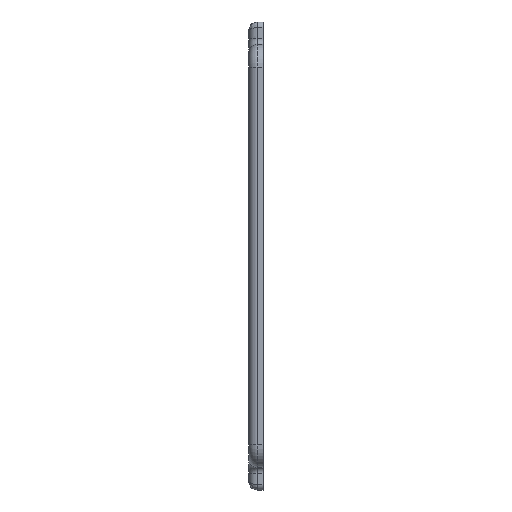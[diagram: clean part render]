
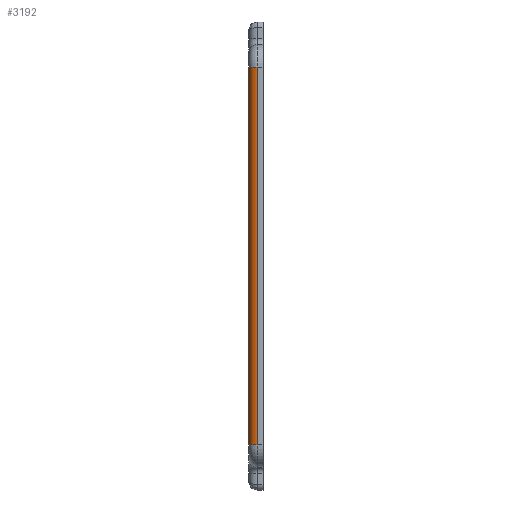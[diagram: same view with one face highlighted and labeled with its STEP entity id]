
A CAD part, left-side view. The second image highlights one B-rep face of the part: STEP entity #3192.
In plain terms, the highlighted cylindrical face has radius 3 mm (diameter 6 mm), a partial arc.
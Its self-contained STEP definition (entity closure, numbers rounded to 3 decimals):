
#429=DIRECTION('',(0.,0.,1.));
#430=VECTOR('',#429,134.);
#431=CARTESIAN_POINT('',(-57.5,5.,-67.));
#432=LINE('',#431,#430);
#1151=CARTESIAN_POINT('',(-57.5,2.,67.));
#1152=DIRECTION('',(0.,0.,1.));
#1153=DIRECTION('',(0.,1.,0.));
#1154=AXIS2_PLACEMENT_3D('',#1151,#1152,#1153);
#1156=CARTESIAN_POINT('',(-57.5,2.,-67.));
#1157=DIRECTION('',(0.,0.,1.));
#1158=DIRECTION('',(0.,1.,0.));
#1159=AXIS2_PLACEMENT_3D('',#1156,#1157,#1158);
#1161=DIRECTION('',(0.,0.,1.));
#1162=VECTOR('',#1161,134.);
#1163=CARTESIAN_POINT('',(-60.5,2.,-67.));
#1164=LINE('',#1163,#1162);
#1403=CARTESIAN_POINT('',(-57.5,5.,-67.));
#1404=VERTEX_POINT('',#1403);
#1405=CARTESIAN_POINT('',(-60.5,2.,-67.));
#1406=VERTEX_POINT('',#1405);
#1407=CARTESIAN_POINT('',(-57.5,5.,67.));
#1408=VERTEX_POINT('',#1407);
#1409=CARTESIAN_POINT('',(-60.5,2.,67.));
#1410=VERTEX_POINT('',#1409);
#3180=CARTESIAN_POINT('',(-57.5,2.,-67.154));
#3181=DIRECTION('',(0.,0.,1.));
#3182=DIRECTION('',(0.,1.,0.));
#3183=AXIS2_PLACEMENT_3D('',#3180,#3181,#3182);
#3184=CYLINDRICAL_SURFACE('',#3183,3.);
#3185=ORIENTED_EDGE('',*,*,#1674,.T.);
#3186=ORIENTED_EDGE('',*,*,#3175,.T.);
#3188=ORIENTED_EDGE('',*,*,#3187,.F.);
#3189=ORIENTED_EDGE('',*,*,#1575,.F.);
#3190=EDGE_LOOP('',(#3185,#3186,#3188,#3189));
#3191=FACE_OUTER_BOUND('',#3190,.F.);
#3192=ADVANCED_FACE('',(#3191),#3184,.T.);
#1155=CIRCLE('',#1154,3.);
#1160=CIRCLE('',#1159,3.);
#1575=EDGE_CURVE('',#1404,#1406,#1160,.T.);
#1674=EDGE_CURVE('',#1404,#1408,#432,.T.);
#3175=EDGE_CURVE('',#1408,#1410,#1155,.T.);
#3187=EDGE_CURVE('',#1406,#1410,#1164,.T.);
